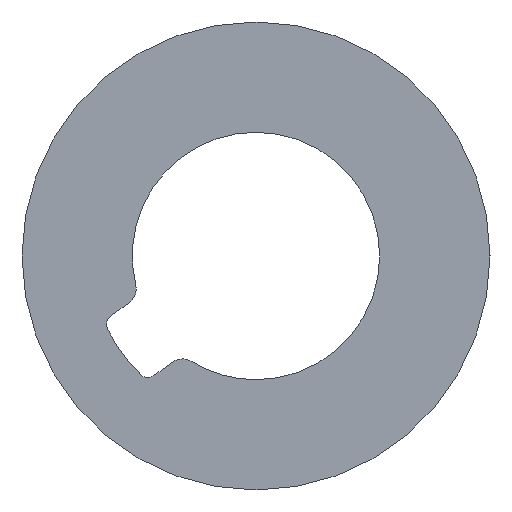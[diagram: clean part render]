
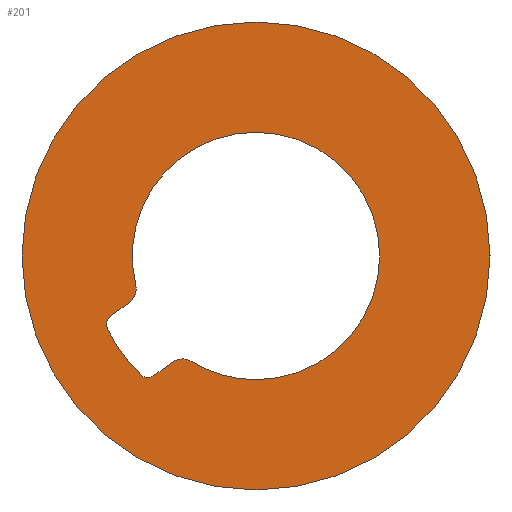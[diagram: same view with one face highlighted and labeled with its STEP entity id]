
A CAD part, left-side view. The second image highlights one B-rep face of the part: STEP entity #201.
In plain terms, the highlighted planar face has unit normal (-1, 0, 0).
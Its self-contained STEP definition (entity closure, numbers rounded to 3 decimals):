
#37 = CIRCLE ( 'NONE', #222, 0.3 ) ;
#39 = CIRCLE ( 'NONE', #223, 4.95 ) ;
#40 = CIRCLE ( 'NONE', #224, 0.3 ) ;
#41 = VECTOR ( 'NONE', #383, 1000. ) ;
#42 = CIRCLE ( 'NONE', #225, 0.5 ) ;
#43 = LINE ( 'NONE', #384, #41 ) ;
#44 = CIRCLE ( 'NONE', #226, 0.5 ) ;
#45 = VECTOR ( 'NONE', #393, 1000. ) ;
#46 = CIRCLE ( 'NONE', #227, 7. ) ;
#47 = LINE ( 'NONE', #394, #45 ) ;
#58 = CIRCLE ( 'NONE', #240, 3.7 ) ;
#66 = CIRCLE ( 'NONE', #234, 3.7 ) ;
#73 = CIRCLE ( 'NONE', #237, 3.7 ) ;
#81 = CIRCLE ( 'NONE', #239, 7. ) ;
#91 = CIRCLE ( 'NONE', #243, 0.3 ) ;
#106 = ORIENTED_EDGE ( 'NONE', *, *, #291, .T. ) ;
#107 = ORIENTED_EDGE ( 'NONE', *, *, #290, .T. ) ;
#108 = ORIENTED_EDGE ( 'NONE', *, *, #279, .T. ) ;
#110 = ORIENTED_EDGE ( 'NONE', *, *, #292, .T. ) ;
#111 = ORIENTED_EDGE ( 'NONE', *, *, #293, .T. ) ;
#112 = ORIENTED_EDGE ( 'NONE', *, *, #262, .T. ) ;
#122 = ORIENTED_EDGE ( 'NONE', *, *, #294, .T. ) ;
#130 = FACE_BOUND ( 'NONE', #151, .T. ) ;
#131 = FACE_OUTER_BOUND ( 'NONE', #152, .T. ) ;
#151 = EDGE_LOOP ( 'NONE', ( #191, #192, #193, #194, #108, #107, #106, #110, #112, #111, #122 ) ) ;
#152 = EDGE_LOOP ( 'NONE', ( #189, #190 ) ) ;
#189 = ORIENTED_EDGE ( 'NONE', *, *, #287, .F. ) ;
#190 = ORIENTED_EDGE ( 'NONE', *, *, #268, .F. ) ;
#191 = ORIENTED_EDGE ( 'NONE', *, *, #288, .T. ) ;
#192 = ORIENTED_EDGE ( 'NONE', *, *, #289, .T. ) ;
#193 = ORIENTED_EDGE ( 'NONE', *, *, #275, .T. ) ;
#194 = ORIENTED_EDGE ( 'NONE', *, *, #272, .T. ) ;
#201 = ADVANCED_FACE ( 'NONE', ( #131, #130 ), #479, .F. ) ;
#222 = AXIS2_PLACEMENT_3D ( 'NONE', #376, #374, #373 ) ;
#223 = AXIS2_PLACEMENT_3D ( 'NONE', #379, #378, #377 ) ;
#224 = AXIS2_PLACEMENT_3D ( 'NONE', #382, #381, #380 ) ;
#225 = AXIS2_PLACEMENT_3D ( 'NONE', #388, #386, #385 ) ;
#226 = AXIS2_PLACEMENT_3D ( 'NONE', #391, #390, #389 ) ;
#227 = AXIS2_PLACEMENT_3D ( 'NONE', #397, #396, #395 ) ;
#234 = AXIS2_PLACEMENT_3D ( 'NONE', #452, #451, #450 ) ;
#237 = AXIS2_PLACEMENT_3D ( 'NONE', #317, #315, #311 ) ;
#239 = AXIS2_PLACEMENT_3D ( 'NONE', #365, #359, #356 ) ;
#240 = AXIS2_PLACEMENT_3D ( 'NONE', #439, #437, #436 ) ;
#243 = AXIS2_PLACEMENT_3D ( 'NONE', #426, #430, #402 ) ;
#257 = AXIS2_PLACEMENT_3D ( 'NONE', #477, #476, #475 ) ;
#262 = EDGE_CURVE ( 'NONE', #512, #503, #91, .T. ) ;
#268 = EDGE_CURVE ( 'NONE', #507, #499, #81, .T. ) ;
#272 = EDGE_CURVE ( 'NONE', #502, #501, #73, .T. ) ;
#275 = EDGE_CURVE ( 'NONE', #525, #502, #66, .T. ) ;
#279 = EDGE_CURVE ( 'NONE', #501, #500, #58, .T. ) ;
#287 = EDGE_CURVE ( 'NONE', #499, #507, #46, .T. ) ;
#288 = EDGE_CURVE ( 'NONE', #520, #518, #47, .T. ) ;
#289 = EDGE_CURVE ( 'NONE', #518, #525, #44, .T. ) ;
#290 = EDGE_CURVE ( 'NONE', #500, #522, #42, .T. ) ;
#291 = EDGE_CURVE ( 'NONE', #522, #523, #43, .T. ) ;
#292 = EDGE_CURVE ( 'NONE', #523, #512, #40, .T. ) ;
#293 = EDGE_CURVE ( 'NONE', #503, #496, #39, .T. ) ;
#294 = EDGE_CURVE ( 'NONE', #496, #520, #37, .T. ) ;
#311 = DIRECTION ( 'NONE',  ( 0., 0., -1. ) ) ;
#315 = DIRECTION ( 'NONE',  ( 1., 0., 0. ) ) ;
#317 = CARTESIAN_POINT ( 'NONE',  ( -160.5, 0., 0. ) ) ;
#326 = CARTESIAN_POINT ( 'NONE',  ( -160.5, 3.596, -0.87 ) ) ;
#328 = CARTESIAN_POINT ( 'NONE',  ( -160.5, 3.059, -3.582 ) ) ;
#329 = CARTESIAN_POINT ( 'NONE',  ( -160.5, 2.495, -3.172 ) ) ;
#332 = CARTESIAN_POINT ( 'NONE',  ( -160.5, 4.352, -1.803 ) ) ;
#336 = CARTESIAN_POINT ( 'NONE',  ( -160.5, 3.788, -1.393 ) ) ;
#343 = CARTESIAN_POINT ( 'NONE',  ( -160.5, 3.236, -3.64 ) ) ;
#346 = CARTESIAN_POINT ( 'NONE',  ( -160.5, 0., -7. ) ) ;
#348 = CARTESIAN_POINT ( 'NONE',  ( -160.5, 3.444, -3.555 ) ) ;
#349 = CARTESIAN_POINT ( 'NONE',  ( -160.5, 0., 3.7 ) ) ;
#351 = CARTESIAN_POINT ( 'NONE',  ( -160.5, 0., -3.7 ) ) ;
#352 = CARTESIAN_POINT ( 'NONE',  ( -160.5, 1.939, -3.151 ) ) ;
#353 = CARTESIAN_POINT ( 'NONE',  ( -160.5, 0., 7. ) ) ;
#356 = DIRECTION ( 'NONE',  ( 0., 0., -1. ) ) ;
#357 = CARTESIAN_POINT ( 'NONE',  ( -160.5, 4.445, -2.177 ) ) ;
#359 = DIRECTION ( 'NONE',  ( 1., 0., 0. ) ) ;
#365 = CARTESIAN_POINT ( 'NONE',  ( -160.5, 0., 0. ) ) ;
#373 = DIRECTION ( 'NONE',  ( 0., 0., -1. ) ) ;
#374 = DIRECTION ( 'NONE',  ( 1., 0., 0. ) ) ;
#376 = CARTESIAN_POINT ( 'NONE',  ( -160.5, 4.176, -2.045 ) ) ;
#377 = DIRECTION ( 'NONE',  ( 0., 0., 1. ) ) ;
#378 = DIRECTION ( 'NONE',  ( 1., 0., 0. ) ) ;
#379 = CARTESIAN_POINT ( 'NONE',  ( -160.5, 0., 0. ) ) ;
#380 = DIRECTION ( 'NONE',  ( 0., 0., 1. ) ) ;
#381 = DIRECTION ( 'NONE',  ( 1., 0., 0. ) ) ;
#382 = CARTESIAN_POINT ( 'NONE',  ( -160.5, 3.236, -3.34 ) ) ;
#383 = DIRECTION ( 'NONE',  ( 0., 0.809, -0.588 ) ) ;
#384 = CARTESIAN_POINT ( 'NONE',  ( -160.5, 3.059, -3.582 ) ) ;
#385 = DIRECTION ( 'NONE',  ( 0., 0., -1. ) ) ;
#386 = DIRECTION ( 'NONE',  ( -1., 0., 0. ) ) ;
#388 = CARTESIAN_POINT ( 'NONE',  ( -160.5, 2.201, -3.577 ) ) ;
#389 = DIRECTION ( 'NONE',  ( 0., 0., 1. ) ) ;
#390 = DIRECTION ( 'NONE',  ( -1., 0., 0. ) ) ;
#391 = CARTESIAN_POINT ( 'NONE',  ( -160.5, 4.082, -0.988 ) ) ;
#393 = DIRECTION ( 'NONE',  ( 0., -0.809, 0.588 ) ) ;
#394 = CARTESIAN_POINT ( 'NONE',  ( -160.5, 3.788, -1.393 ) ) ;
#395 = DIRECTION ( 'NONE',  ( 0., 0., -1. ) ) ;
#396 = DIRECTION ( 'NONE',  ( 1., 0., 0. ) ) ;
#397 = CARTESIAN_POINT ( 'NONE',  ( -160.5, 0., 0. ) ) ;
#402 = DIRECTION ( 'NONE',  ( 0., 0., 1. ) ) ;
#426 = CARTESIAN_POINT ( 'NONE',  ( -160.5, 3.236, -3.34 ) ) ;
#430 = DIRECTION ( 'NONE',  ( 1., 0., 0. ) ) ;
#436 = DIRECTION ( 'NONE',  ( 0., 0., -1. ) ) ;
#437 = DIRECTION ( 'NONE',  ( 1., 0., 0. ) ) ;
#439 = CARTESIAN_POINT ( 'NONE',  ( -160.5, 0., 0. ) ) ;
#450 = DIRECTION ( 'NONE',  ( 0., 0., -1. ) ) ;
#451 = DIRECTION ( 'NONE',  ( 1., 0., 0. ) ) ;
#452 = CARTESIAN_POINT ( 'NONE',  ( -160.5, 0., 0. ) ) ;
#475 = DIRECTION ( 'NONE',  ( 0., 0., -1. ) ) ;
#476 = DIRECTION ( 'NONE',  ( 1., 0., 0. ) ) ;
#477 = CARTESIAN_POINT ( 'NONE',  ( -160.5, 0., 0. ) ) ;
#479 = PLANE ( 'NONE',  #257 ) ;
#496 = VERTEX_POINT ( 'NONE', #357 ) ;
#499 = VERTEX_POINT ( 'NONE', #353 ) ;
#500 = VERTEX_POINT ( 'NONE', #352 ) ;
#501 = VERTEX_POINT ( 'NONE', #351 ) ;
#502 = VERTEX_POINT ( 'NONE', #349 ) ;
#503 = VERTEX_POINT ( 'NONE', #348 ) ;
#507 = VERTEX_POINT ( 'NONE', #346 ) ;
#512 = VERTEX_POINT ( 'NONE', #343 ) ;
#518 = VERTEX_POINT ( 'NONE', #336 ) ;
#520 = VERTEX_POINT ( 'NONE', #332 ) ;
#522 = VERTEX_POINT ( 'NONE', #329 ) ;
#523 = VERTEX_POINT ( 'NONE', #328 ) ;
#525 = VERTEX_POINT ( 'NONE', #326 ) ;
